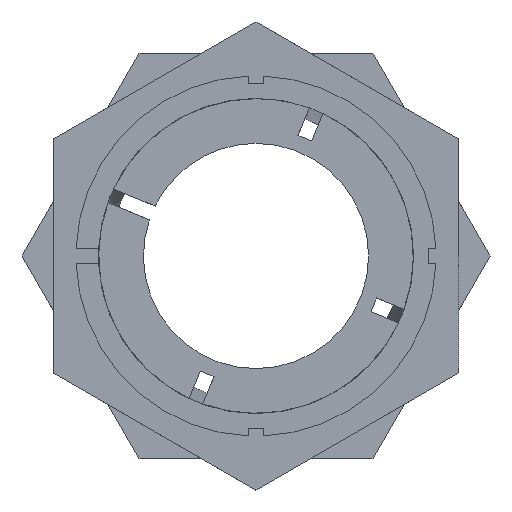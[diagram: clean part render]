
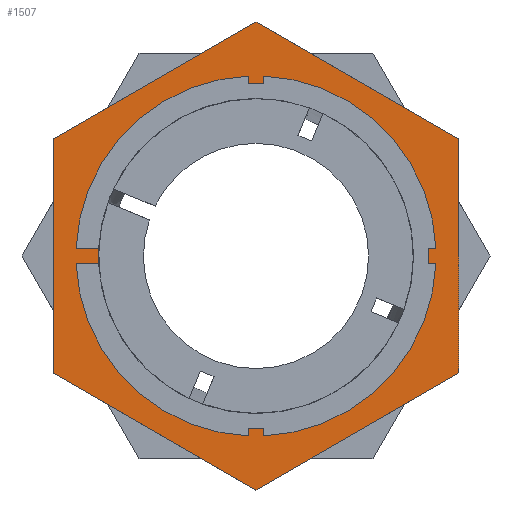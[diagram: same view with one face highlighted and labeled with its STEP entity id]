
A CAD part, left-side view. The second image highlights one B-rep face of the part: STEP entity #1507.
In plain terms, the highlighted planar face has unit normal (-1, 0, 0).
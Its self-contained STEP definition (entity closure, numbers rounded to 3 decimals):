
#163 = EDGE_CURVE ( 'NONE', #2360, #391, #1553, .T. ) ;
#164 = EDGE_CURVE ( 'NONE', #399, #2360, #1559, .T. ) ;
#207 = EDGE_CURVE ( 'NONE', #391, #395, #2324, .T. ) ;
#208 = EDGE_CURVE ( 'NONE', #395, #375, #2326, .T. ) ;
#209 = EDGE_CURVE ( 'NONE', #382, #398, #2330, .T. ) ;
#210 = EDGE_CURVE ( 'NONE', #375, #403, #2329, .T. ) ;
#211 = EDGE_CURVE ( 'NONE', #403, #399, #2331, .T. ) ;
#232 = EDGE_CURVE ( 'NONE', #398, #382, #2447, .T. ) ;
#269 = AXIS2_PLACEMENT_3D ( 'NONE', #684, #702, #703 ) ;
#276 = AXIS2_PLACEMENT_3D ( 'NONE', #741, #755, #756 ) ;
#330 = AXIS2_PLACEMENT_3D ( 'NONE', #1034, #1039, #1040 ) ;
#375 = VERTEX_POINT ( 'NONE', #761 ) ;
#382 = VERTEX_POINT ( 'NONE', #766 ) ;
#391 = VERTEX_POINT ( 'NONE', #775 ) ;
#395 = VERTEX_POINT ( 'NONE', #779 ) ;
#398 = VERTEX_POINT ( 'NONE', #782 ) ;
#399 = VERTEX_POINT ( 'NONE', #783 ) ;
#403 = VERTEX_POINT ( 'NONE', #787 ) ;
#579 = CARTESIAN_POINT ( 'NONE',  ( 15.52, -13.5, 7.794 ) ) ;
#581 = CARTESIAN_POINT ( 'NONE',  ( 15.52, 0., 15.588 ) ) ;
#582 = DIRECTION ( 'NONE',  ( 0., 0.866, 0.5 ) ) ;
#583 = DIRECTION ( 'NONE',  ( 0., 0., 1. ) ) ;
#684 = CARTESIAN_POINT ( 'NONE',  ( 15.52, 0., 0. ) ) ;
#687 = CARTESIAN_POINT ( 'NONE',  ( 15.52, 0., -15.588 ) ) ;
#698 = CARTESIAN_POINT ( 'NONE',  ( 15.52, 13.5, 7.794 ) ) ;
#699 = DIRECTION ( 'NONE',  ( 0., 0.866, -0.5 ) ) ;
#700 = CARTESIAN_POINT ( 'NONE',  ( 15.52, 13.5, -7.794 ) ) ;
#701 = DIRECTION ( 'NONE',  ( 0., 0., -1. ) ) ;
#702 = DIRECTION ( 'NONE',  ( -1., 0., 0. ) ) ;
#703 = DIRECTION ( 'NONE',  ( 0., 0., 1. ) ) ;
#705 = DIRECTION ( 'NONE',  ( 0., -0.866, -0.5 ) ) ;
#706 = CARTESIAN_POINT ( 'NONE',  ( 15.52, -13.5, -7.794 ) ) ;
#707 = DIRECTION ( 'NONE',  ( 0., -0.866, 0.5 ) ) ;
#741 = CARTESIAN_POINT ( 'NONE',  ( 15.52, 0., 0. ) ) ;
#755 = DIRECTION ( 'NONE',  ( -1., 0., 0. ) ) ;
#756 = DIRECTION ( 'NONE',  ( 0., 0., 1. ) ) ;
#761 = CARTESIAN_POINT ( 'NONE',  ( 15.52, 13.5, -7.794 ) ) ;
#766 = CARTESIAN_POINT ( 'NONE',  ( 15.52, 0., 10.501 ) ) ;
#775 = CARTESIAN_POINT ( 'NONE',  ( 15.52, 0., 15.588 ) ) ;
#779 = CARTESIAN_POINT ( 'NONE',  ( 15.52, 13.5, 7.794 ) ) ;
#782 = CARTESIAN_POINT ( 'NONE',  ( 15.52, 0., -10.501 ) ) ;
#783 = CARTESIAN_POINT ( 'NONE',  ( 15.52, -13.5, -7.794 ) ) ;
#787 = CARTESIAN_POINT ( 'NONE',  ( 15.52, 0., -15.588 ) ) ;
#1033 = PLANE ( 'NONE',  #330 ) ;
#1034 = CARTESIAN_POINT ( 'NONE',  ( 15.52, 50., 0. ) ) ;
#1039 = DIRECTION ( 'NONE',  ( 1., 0., 0. ) ) ;
#1040 = DIRECTION ( 'NONE',  ( 0., 0., -1. ) ) ;
#1129 = CARTESIAN_POINT ( 'NONE',  ( 15.52, -13.5, 7.794 ) ) ;
#1225 = FACE_OUTER_BOUND ( 'NONE', #2029, .T. ) ;
#1303 = FACE_BOUND ( 'NONE', #1821, .T. ) ;
#1507 = ADVANCED_FACE ( 'NONE', ( #1303, #1225 ), #1033, .F. ) ;
#1551 = VECTOR ( 'NONE', #583, 1000. ) ;
#1552 = VECTOR ( 'NONE', #582, 1000. ) ;
#1553 = LINE ( 'NONE', #581, #1552 ) ;
#1559 = LINE ( 'NONE', #579, #1551 ) ;
#1821 = EDGE_LOOP ( 'NONE', ( #2129, #2128 ) ) ;
#2029 = EDGE_LOOP ( 'NONE', ( #2127, #2126, #2125, #2124, #2123, #2122 ) ) ;
#2122 = ORIENTED_EDGE ( 'NONE', *, *, #163, .T. ) ;
#2123 = ORIENTED_EDGE ( 'NONE', *, *, #164, .T. ) ;
#2124 = ORIENTED_EDGE ( 'NONE', *, *, #211, .T. ) ;
#2125 = ORIENTED_EDGE ( 'NONE', *, *, #210, .T. ) ;
#2126 = ORIENTED_EDGE ( 'NONE', *, *, #208, .T. ) ;
#2127 = ORIENTED_EDGE ( 'NONE', *, *, #207, .T. ) ;
#2128 = ORIENTED_EDGE ( 'NONE', *, *, #232, .F. ) ;
#2129 = ORIENTED_EDGE ( 'NONE', *, *, #209, .F. ) ;
#2309 = VECTOR ( 'NONE', #705, 1000. ) ;
#2324 = LINE ( 'NONE', #698, #2325 ) ;
#2325 = VECTOR ( 'NONE', #699, 1000. ) ;
#2326 = LINE ( 'NONE', #700, #2327 ) ;
#2327 = VECTOR ( 'NONE', #701, 1000. ) ;
#2329 = LINE ( 'NONE', #687, #2309 ) ;
#2330 = CIRCLE ( 'NONE', #269, 10.501 ) ;
#2331 = LINE ( 'NONE', #706, #2332 ) ;
#2332 = VECTOR ( 'NONE', #707, 1000. ) ;
#2360 = VERTEX_POINT ( 'NONE', #1129 ) ;
#2447 = CIRCLE ( 'NONE', #276, 10.501 ) ;
